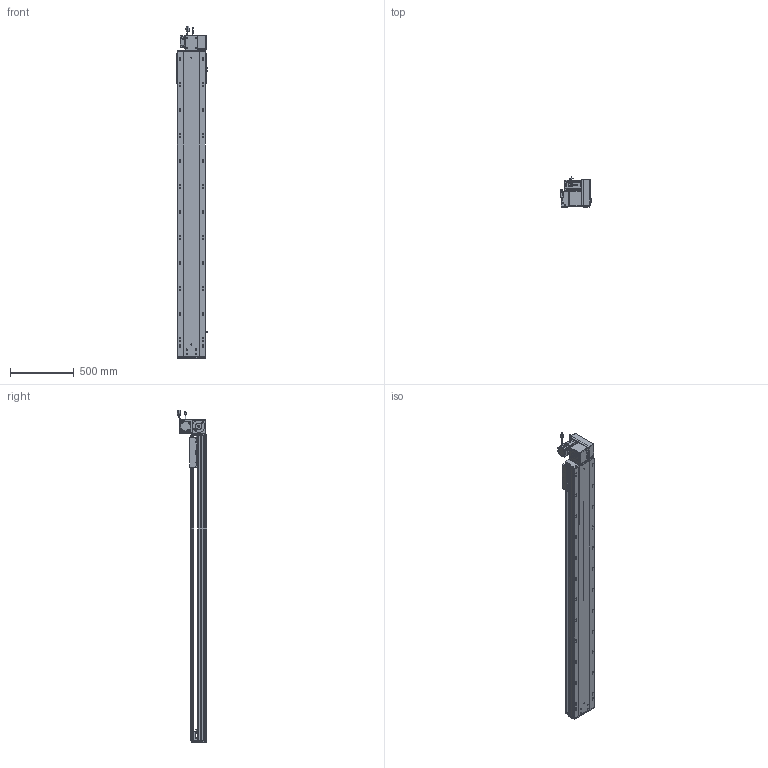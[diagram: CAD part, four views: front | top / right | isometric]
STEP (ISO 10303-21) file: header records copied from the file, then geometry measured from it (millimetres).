
FILE_DESCRIPTION (( 'STEP AP203' ), '1' );
FILE_NAME ('RY220-T-300-UR.SLDASM_2050.step', '2022-07-25T08:44:47', ( '' ), ( '' ), 'SwSTEP 2.0', 'SolidWorks 2016', '' );
FILE_SCHEMA (( 'CONFIG_CONTROL_DESIGN' ));
Length unit declared in the file: millimetre
Products named in the file (14): 覜茼ん672; RY220-T菁釱-300_2050; RY220-T-300-UR.SLDASM_2050; RY220圉猾敕々湍臏賑輸; RY220-T-蛌殏萇儂假蚾啣(750W); RY220-T-湍謫欶(鍼踢); RY220-俋离672覜茼んえ; 滅袉蝶18-15; 怢湛750W_ECMA-CX0807ES; RY220-同步轮副支撑座6304×2; RY220翋肮祭謫釱; 110A-T-肮祭謫釱傷裔; RY220-T-300-奻裔啣_2050; RY220翋肮祭謫裔啣
Assembly tree (18 placements, depth 2):
  RY220-T-300-UR.SLDASM_2050
    RY220-T菁釱-300_2050
    RY220翋肮祭謫釱
    覜茼ん672  x3
    RY220圉猾敕々湍臏賑輸
    RY220-T-300-奻裔啣_2050
    RY220-俋离672覜茼んえ
    滅袉蝶18-15  x3
    RY220翋肮祭謫裔啣  x2
    110A-T-肮祭謫釱傷裔
    怢湛750W_ECMA-CX0807ES
    RY220-T-湍謫欶(鍼踢)
    RY220-T-蛌殏萇儂假蚾啣(750W)
    RY220-同步轮副支撑座6304×2
Bounding box: 238.7 x 231.74 x 2603.27 mm (x, y, z)
Volume: 19052134.5 mm3; surface area: 5795792.9 mm2
Topology: 19 solids, 19 shells, 2844 faces, 7863 edges, 4952 vertices
Faces by surface type: cylinder 1376, plane 1069, cone 317, bspline 56, sphere 16, torus 10
Entity records: 94851 total; most frequent: CARTESIAN_POINT 26907, ORIENTED_EDGE 14074, DIRECTION 13468, EDGE_CURVE 7037, AXIS2_PLACEMENT_3D 4822, VERTEX_POINT 4576, LINE 3824, VECTOR 3824
